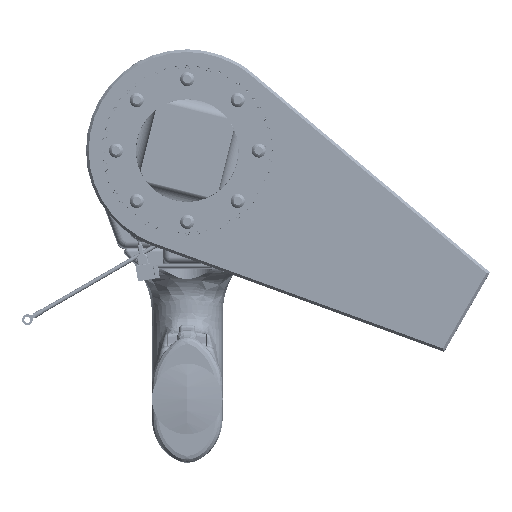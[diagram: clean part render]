
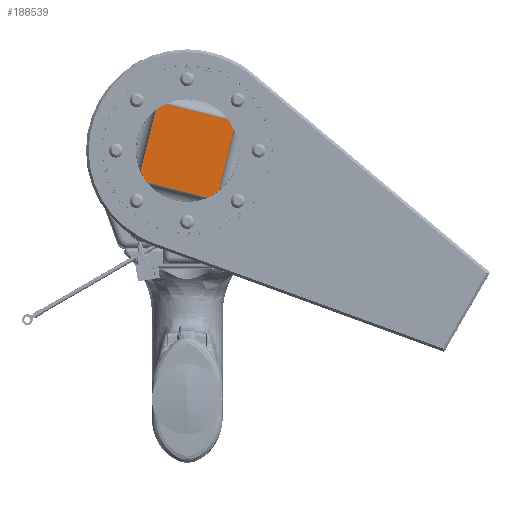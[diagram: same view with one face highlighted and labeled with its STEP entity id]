
A CAD part, top view. The second image highlights one B-rep face of the part: STEP entity #188539.
In plain terms, the highlighted planar face has unit normal (0, 0, 1).
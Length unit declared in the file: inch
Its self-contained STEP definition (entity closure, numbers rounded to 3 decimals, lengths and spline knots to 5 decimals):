
#664 = DIRECTION ( 'NONE',  ( -1., 0., 0. ) ) ;
#3822 = DIRECTION ( 'NONE',  ( -1., 0., 0. ) ) ;
#18098 = VERTEX_POINT ( 'NONE', #390257 ) ;
#25474 = DIRECTION ( 'NONE',  ( -1., 0., 0. ) ) ;
#41812 = CARTESIAN_POINT ( 'NONE',  ( -0.7475, 0., 3.2175 ) ) ;
#57670 = ORIENTED_EDGE ( 'NONE', *, *, #596420, .T. ) ;
#58648 = DIRECTION ( 'NONE',  ( 0., 0., -1. ) ) ;
#66706 = VERTEX_POINT ( 'NONE', #118580 ) ;
#91717 = DIRECTION ( 'NONE',  ( 0., 0., -1. ) ) ;
#92673 = EDGE_CURVE ( 'NONE', #66706, #274991, #372567, .T. ) ;
#103775 = CARTESIAN_POINT ( 'NONE',  ( 0.7475, 0.5863, 3.2175 ) ) ;
#103804 = DIRECTION ( 'NONE',  ( -1., 0., 0. ) ) ;
#106505 = LINE ( 'NONE', #201212, #517183 ) ;
#118580 = CARTESIAN_POINT ( 'NONE',  ( 0.7475, -0.5863, 3.2175 ) ) ;
#126353 = ORIENTED_EDGE ( 'NONE', *, *, #92673, .F. ) ;
#132788 = CARTESIAN_POINT ( 'NONE',  ( -0.5863, 0.7475, 3.2175 ) ) ;
#135544 = ORIENTED_EDGE ( 'NONE', *, *, #280761, .F. ) ;
#146987 = DIRECTION ( 'NONE',  ( 0., 1., 0. ) ) ;
#149044 = ORIENTED_EDGE ( 'NONE', *, *, #496527, .T. ) ;
#149994 = LINE ( 'NONE', #284438, #270485 ) ;
#171521 = CARTESIAN_POINT ( 'NONE',  ( 0., 0., 3.2175 ) ) ;
#185135 = ORIENTED_EDGE ( 'NONE', *, *, #331662, .F. ) ;
#188539 = ADVANCED_FACE ( 'NONE', ( #364471 ), #550925, .F. ) ;
#190003 = VERTEX_POINT ( 'NONE', #103775 ) ;
#190497 = AXIS2_PLACEMENT_3D ( 'NONE', #556962, #407370, #664 ) ;
#201212 = CARTESIAN_POINT ( 'NONE',  ( 0., -0.7475, 3.2175 ) ) ;
#212995 = CIRCLE ( 'NONE', #593890, 0.95 ) ;
#220182 = DIRECTION ( 'NONE',  ( -1., 0., 0. ) ) ;
#249855 = VERTEX_POINT ( 'NONE', #506340 ) ;
#268917 = VERTEX_POINT ( 'NONE', #438944 ) ;
#269477 = EDGE_CURVE ( 'NONE', #268917, #190003, #390665, .T. ) ;
#270485 = VECTOR ( 'NONE', #146987, 39.37008 ) ;
#272115 = DIRECTION ( 'NONE',  ( -1., 0., 0. ) ) ;
#274991 = VERTEX_POINT ( 'NONE', #393969 ) ;
#280761 = EDGE_CURVE ( 'NONE', #400579, #578328, #437420, .T. ) ;
#283209 = AXIS2_PLACEMENT_3D ( 'NONE', #602188, #91717, #103804 ) ;
#284438 = CARTESIAN_POINT ( 'NONE',  ( 0.7475, 0., 3.2175 ) ) ;
#299617 = DIRECTION ( 'NONE',  ( 0., -1., 0. ) ) ;
#321326 = CARTESIAN_POINT ( 'NONE',  ( -0.7475, 0.5863, 3.2175 ) ) ;
#327057 = DIRECTION ( 'NONE',  ( 0., 0., -1. ) ) ;
#327061 = EDGE_CURVE ( 'NONE', #268917, #578328, #465417, .T. ) ;
#331662 = EDGE_CURVE ( 'NONE', #249855, #18098, #212995, .T. ) ;
#346508 = CARTESIAN_POINT ( 'NONE',  ( 0., 0., 3.2175 ) ) ;
#354551 = LINE ( 'NONE', #41812, #402436 ) ;
#364471 = FACE_OUTER_BOUND ( 'NONE', #458662, .T. ) ;
#368606 = ORIENTED_EDGE ( 'NONE', *, *, #442576, .T. ) ;
#372567 = CIRCLE ( 'NONE', #421468, 0.95 ) ;
#390257 = CARTESIAN_POINT ( 'NONE',  ( -0.7475, -0.5863, 3.2175 ) ) ;
#390665 = CIRCLE ( 'NONE', #283209, 0.95 ) ;
#393969 = CARTESIAN_POINT ( 'NONE',  ( 0.5863, -0.7475, 3.2175 ) ) ;
#397351 = ORIENTED_EDGE ( 'NONE', *, *, #327061, .T. ) ;
#400579 = VERTEX_POINT ( 'NONE', #321326 ) ;
#402436 = VECTOR ( 'NONE', #299617, 39.37008 ) ;
#403211 = VECTOR ( 'NONE', #3822, 39.37008 ) ;
#407370 = DIRECTION ( 'NONE',  ( 0., 0., -1. ) ) ;
#421468 = AXIS2_PLACEMENT_3D ( 'NONE', #171521, #327057, #272115 ) ;
#422834 = ORIENTED_EDGE ( 'NONE', *, *, #269477, .F. ) ;
#437420 = CIRCLE ( 'NONE', #466656, 0.95 ) ;
#438944 = CARTESIAN_POINT ( 'NONE',  ( 0.5863, 0.7475, 3.2175 ) ) ;
#442576 = EDGE_CURVE ( 'NONE', #66706, #190003, #149994, .T. ) ;
#458662 = EDGE_LOOP ( 'NONE', ( #57670, #185135, #149044, #126353, #368606, #422834, #397351, #135544 ) ) ;
#465417 = LINE ( 'NONE', #514246, #403211 ) ;
#466656 = AXIS2_PLACEMENT_3D ( 'NONE', #477405, #58648, #220182 ) ;
#473408 = DIRECTION ( 'NONE',  ( 1., 0., 0. ) ) ;
#477405 = CARTESIAN_POINT ( 'NONE',  ( 0., 0., 3.2175 ) ) ;
#487107 = DIRECTION ( 'NONE',  ( 0., 0., -1. ) ) ;
#496527 = EDGE_CURVE ( 'NONE', #249855, #274991, #106505, .T. ) ;
#506340 = CARTESIAN_POINT ( 'NONE',  ( -0.5863, -0.7475, 3.2175 ) ) ;
#514246 = CARTESIAN_POINT ( 'NONE',  ( 0., 0.7475, 3.2175 ) ) ;
#517183 = VECTOR ( 'NONE', #473408, 39.37008 ) ;
#550925 = PLANE ( 'NONE',  #190497 ) ;
#556962 = CARTESIAN_POINT ( 'NONE',  ( 0., 0., 3.2175 ) ) ;
#578328 = VERTEX_POINT ( 'NONE', #132788 ) ;
#593890 = AXIS2_PLACEMENT_3D ( 'NONE', #346508, #487107, #25474 ) ;
#596420 = EDGE_CURVE ( 'NONE', #400579, #18098, #354551, .T. ) ;
#602188 = CARTESIAN_POINT ( 'NONE',  ( 0., 0., 3.2175 ) ) ;
